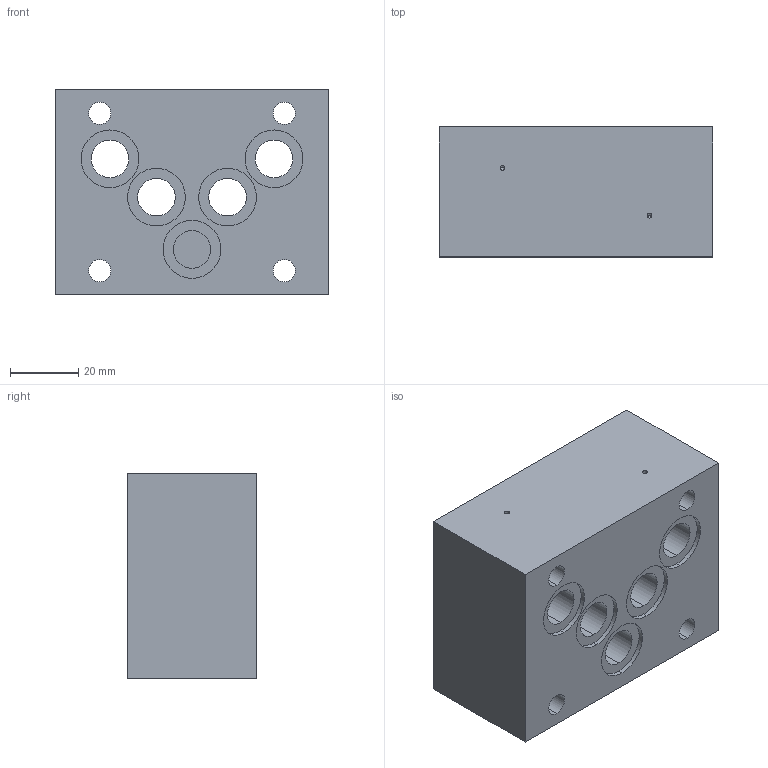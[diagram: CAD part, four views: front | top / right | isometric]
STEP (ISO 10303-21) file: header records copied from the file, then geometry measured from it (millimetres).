
FILE_DESCRIPTION (( 'STEP AP214' ), '1' );
FILE_NAME ('ARVP10.STEP', '2017-04-11T09:35:07', ( '' ), ( '' ), 'SwSTEP 2.0', 'SolidWorks 2016', '' );
FILE_SCHEMA (( 'AUTOMOTIVE_DESIGN' ));
Length unit declared in the file: millimetre
Products named in the file (1): ARVP10
Bounding box: 80 x 38 x 60 mm (x, y, z)
Volume: 160256.3 mm3; surface area: 28904.9 mm2
Topology: 1 solids, 3 shells, 111 faces, 280 edges, 180 vertices
Faces by surface type: cylinder 58, plane 33, torus 12, cone 8
Entity records: 4718 total; most frequent: CARTESIAN_POINT 1024, ORIENTED_EDGE 552, DIRECTION 522, EDGE_CURVE 276, AXIS2_PLACEMENT_3D 222, VERTEX_POINT 180, EDGE_LOOP 140, FACE_OUTER_BOUND 111
